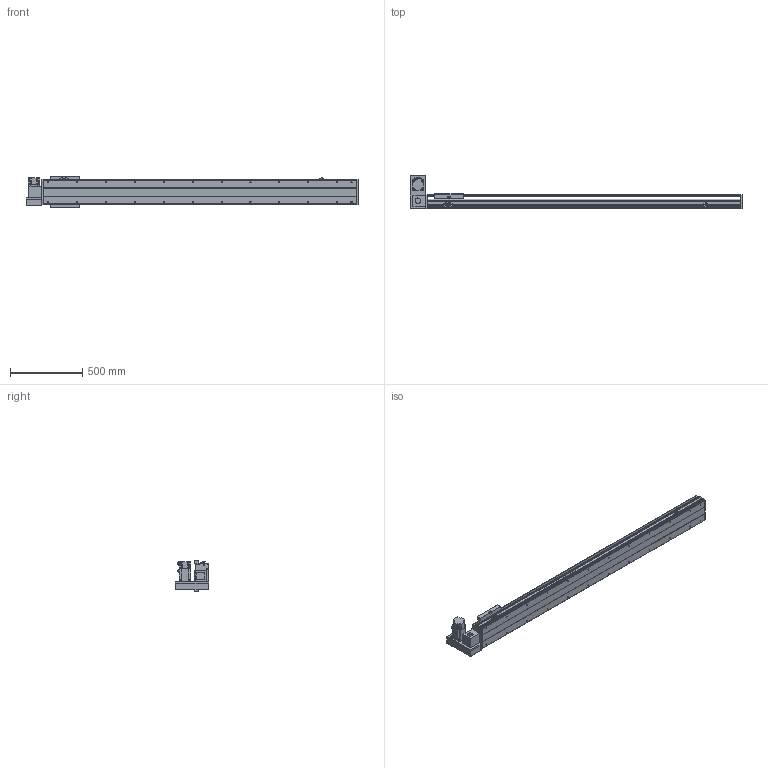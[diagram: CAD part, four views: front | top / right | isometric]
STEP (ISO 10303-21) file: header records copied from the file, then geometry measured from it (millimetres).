
FILE_DESCRIPTION(/* description */ ('STEP AP214'),/* implementation_level */ '2;1');
FILE_NAME(/* name */ 'PBS200-P40-S1800-LU-T75-C1-N(0)',/* time_stamp */ '2022-06-11T09:01:18+02:00',/* author */ ('License CC BY-ND 4.0'),/* organization */ ('CADENAS'),/* preprocessor_version */ 'ST-DEVELOPER v18.102',/* originating_system */ 'PARTsolutions',/* authorisation */ ' ');
FILE_SCHEMA (('AUTOMOTIVE_DESIGN {1 0 10303 214 3 1 1}'));
Length unit declared in the file: millimetre
Products named in the file (7): PBS200-P40-S1800-LU-T75-C1-N(0); PBS200_sensor; PBS200_plant; PBS200_sliser; T75-p1; PBS200T-LU_motors; PBS200-S1800()_body
Assembly tree (8 placements, depth 2):
  PBS200-P40-S1800-LU-T75-C1-N(0)
    PBS200_sensor  x3
    PBS200_plant
    PBS200_sliser
    T75-p1
    PBS200T-LU_motors
    PBS200-S1800()_body
Bounding box: 2300 x 231 x 221 mm (x, y, z)
Volume: 16232684.6 mm3; surface area: 2607256.8 mm2
Topology: 8 solids, 8 shells, 944 faces, 2414 edges, 1572 vertices
Faces by surface type: plane 582, cylinder 306, cone 56
Full cylindrical faces by diameter (mm): 2.459 x6, 3.242 x4, 4.5 x6, 4.917 x4, 5 x6, 6 x7, 6.6 x8, 6.647 x28, 8 x6, 10 x4, 12 x8, 38 x2, 40 x1, 70 x1
Entity records: 25061 total; most frequent: DIRECTION 4423, CARTESIAN_POINT 4264, ORIENTED_EDGE 4030, EDGE_CURVE 2015, AXIS2_PLACEMENT_3D 1555, VERTEX_POINT 1396, LINE 1313, VECTOR 1313
